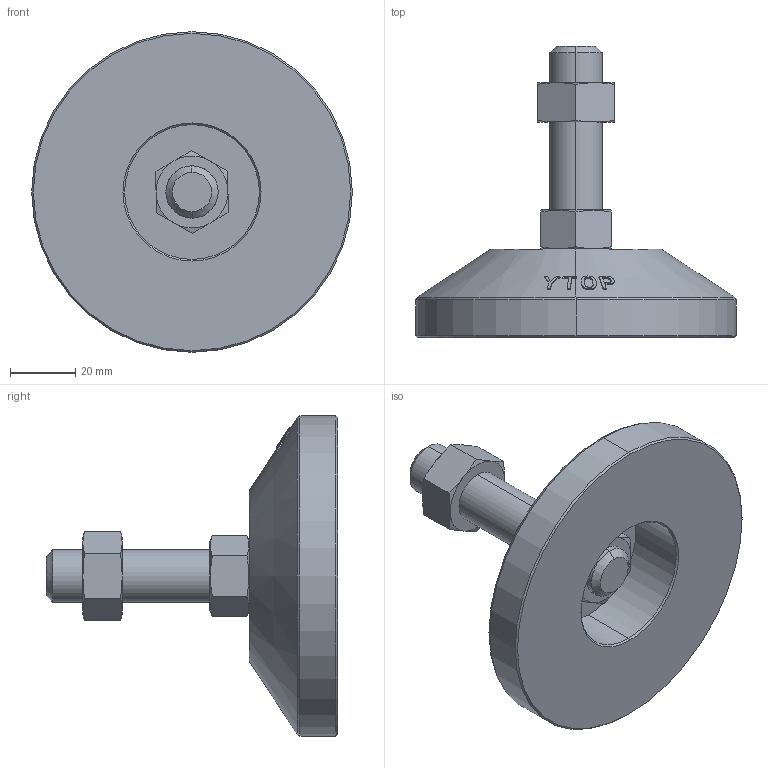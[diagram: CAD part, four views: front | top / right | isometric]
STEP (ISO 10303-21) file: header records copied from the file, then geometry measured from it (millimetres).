
FILE_DESCRIPTION (( 'STEP AP203' ), '1' );
FILE_NAME ('M-100-1650-S.STEP', '2020-09-10T07:00:48', ( '' ), ( '' ), 'SwSTEP 2.0', 'SolidWorks 2016', '' );
FILE_SCHEMA (( 'CONFIG_CONTROL_DESIGN' ));
Length unit declared in the file: millimetre
Products named in the file (5): M-100-1褐菜 ; 脚垫调节六角螺母M16; M-100-1650-S; 脚垫锁紧六角薄螺母M16; 不锈钢双头螺杆M16系列_M16X50
Assembly tree (4 placements, depth 2):
  M-100-1650-S
    M-100-1褐菜 
    不锈钢双头螺杆M16系列_M16X50
    脚垫锁紧六角薄螺母M16
    脚垫调节六角螺母M16
Bounding box: 98 x 89 x 98 mm (x, y, z)
Volume: 157420.7 mm3; surface area: 30547 mm2
Topology: 4 solids, 4 shells, 143 faces, 329 edges, 202 vertices
Faces by surface type: cone 62, bspline 38, plane 29, cylinder 14
Entity records: 8832 total; most frequent: CARTESIAN_POINT 5481, ORIENTED_EDGE 658, DIRECTION 457, EDGE_CURVE 329, VERTEX_POINT 202, AXIS2_PLACEMENT_3D 196, B_SPLINE_CURVE_WITH_KNOTS 180, EDGE_LOOP 157
